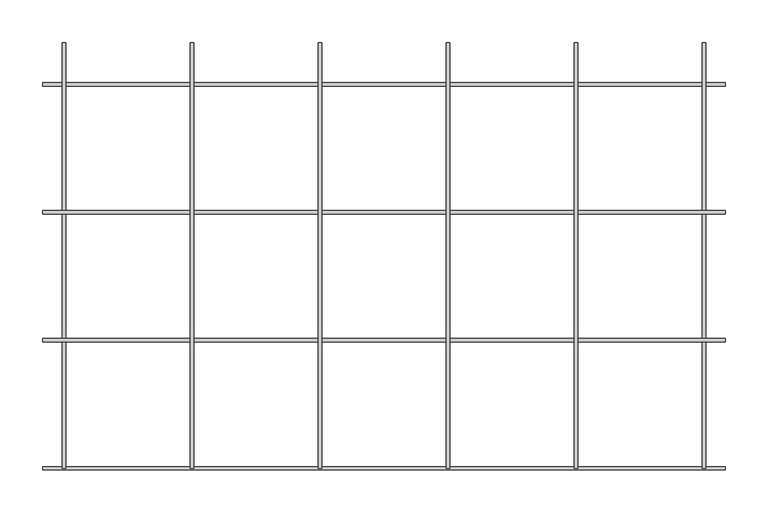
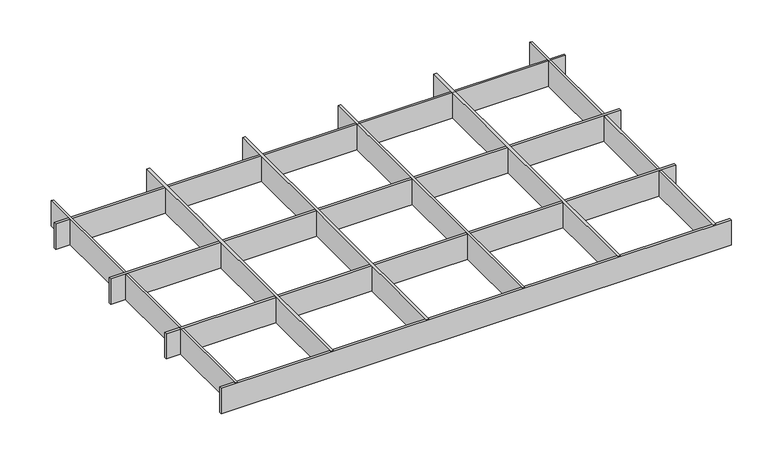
"""IFC4 building model written with IfcOpenShell, lengths in millimetres: proxy geometry, durlum_GEO_panel : durlum_GEO_4_corner_cut."""

from ifc_helpers import new_model, si_unit, origin, origin_with_axes, place, context, project, spatial, polyline, outline, extrude, source, transform, mapped, element, save


def generic_models_6487c8f3(model_context):
    return source(origin(), model_context, "Body", "SweptSolid", [
        extrude(outline(polyline([(223.0, 249.5), (227.0, 249.5), (227.0, -249.5), (223.0, -249.5), (223.0, 249.5)])), origin_with_axes(), (0.0, 0.0, 1.0), 42.0),
        extrude(outline(polyline([(73.0, 249.5), (77.0, 249.5), (77.0, -249.5), (73.0, -249.5), (73.0, 249.5)])), origin_with_axes(), (0.0, 0.0, 1.0), 42.0),
        extrude(outline(polyline([(-77.0, 249.5), (-73.0, 249.5), (-73.0, -249.5), (-77.0, -249.5), (-77.0, 249.5)])), origin_with_axes(), (0.0, 0.0, 1.0), 42.0),
        extrude(outline(polyline([(-227.0, 249.5), (-223.0, 249.5), (-223.0, -249.5), (-227.0, -249.5), (-227.0, 249.5)])), origin_with_axes(), (0.0, 0.0, 1.0), 42.0),
        extrude(outline(polyline([(399.75, -97.5), (399.75, -101.5), (-399.75, -101.5), (-399.75, -97.5), (399.75, -97.5)])), origin_with_axes(), (0.0, 0.0, 1.0), 42.0),
        extrude(outline(polyline([(399.75, 52.5), (399.75, 48.5), (-399.75, 48.5), (-399.75, 52.5), (399.75, 52.5)])), origin_with_axes(), (0.0, 0.0, 1.0), 42.0),
        extrude(outline(polyline([(373.0, 249.5), (377.0, 249.5), (377.0, -249.5), (373.0, -249.5), (373.0, 249.5)])), origin_with_axes(), (0.0, 0.0, 1.0), 42.0),
        extrude(outline(polyline([(-377.0, 249.5), (-373.0, 249.5), (-373.0, -249.5), (-377.0, -249.5), (-377.0, 249.5)])), origin_with_axes(), (0.0, 0.0, 1.0), 42.0),
        extrude(outline(polyline([(399.75, -247.5), (399.75, -251.5), (-399.75, -251.5), (-399.75, -247.5), (399.75, -247.5)])), origin_with_axes(), (0.0, 0.0, 1.0), 42.0),
        extrude(outline(polyline([(399.75, 202.5), (399.75, 198.5), (-399.75, 198.5), (-399.75, 202.5), (399.75, 202.5)])), origin_with_axes(), (0.0, 0.0, 1.0), 42.0),
    ])


if __name__ == "__main__":
    model = new_model("IFC4")
    model_context = context("Model", 3, world=origin())
    ifc_project = project(units=[si_unit("LENGTHUNIT", "METRE", prefix="MILLI")], contexts=[model_context])
    site = spatial("IfcSite", under=ifc_project)
    building = spatial("IfcBuilding", under=site)
    placement = place(None, origin())
    generic_models_shape = generic_models_6487c8f3(model_context)
    element("IfcBuildingElementProxy", 1, Name="durlum_GEO_panel : durlum_GEO_4_corner_cut", ObjectType="durlum_GEO_panel : durlum_GEO_4_corner_cut", at=placement, inside=building, context=model_context, shape_type="MappedRepresentation", body=[
        mapped(generic_models_shape, transform((0.0, 0.0, 0.0), x_axis=(1.0, 0.0, 0.0), y_axis=(0.0, 1.0, 0.0), z_axis=(0.0, 0.0, 1.0))),
    ])
    save(model, "model.ifc")
